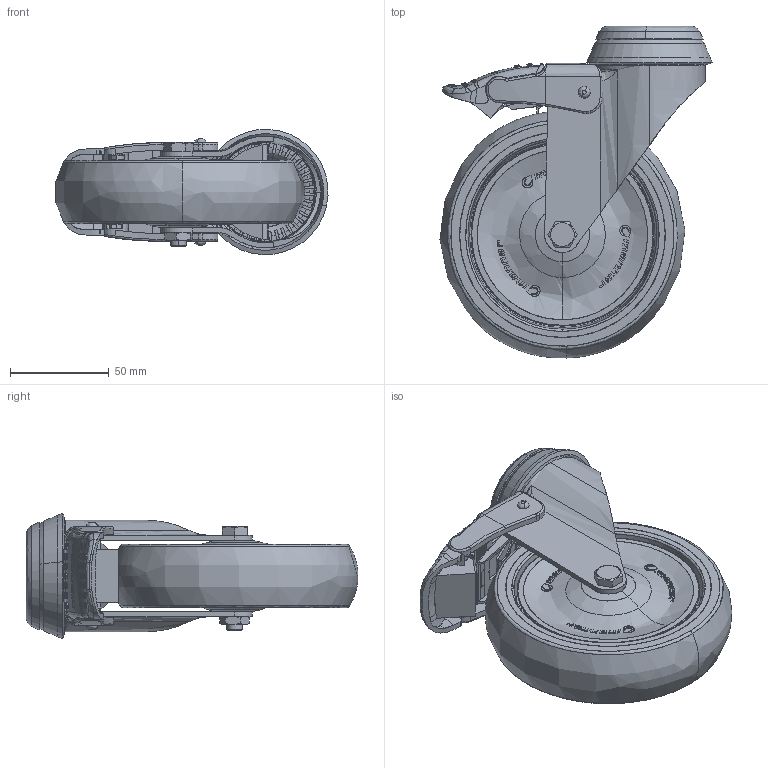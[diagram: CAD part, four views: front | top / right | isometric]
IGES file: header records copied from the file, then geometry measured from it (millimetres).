
Start section: SolidWorks IGES file using analytic representation for surfaces
Global section: file name: S:\Tyokansio\VL\14.2.2012\300882_IGES.IGS; native system: SolidWorks 2011; preprocessor: SolidWorks 2011; author: VilleLa; date: 120228.081524; units: millimetre
Bounding box: 137.59 x 167.88 x 63.32 mm (x, y, z)
Surface area: 128738.2 mm2 (no closed solid volume)
Topology: 0 solids, 0 shells, 1116 faces, 16519 edges, 16506 vertices
Faces by surface type: bspline 864, revolution 252
